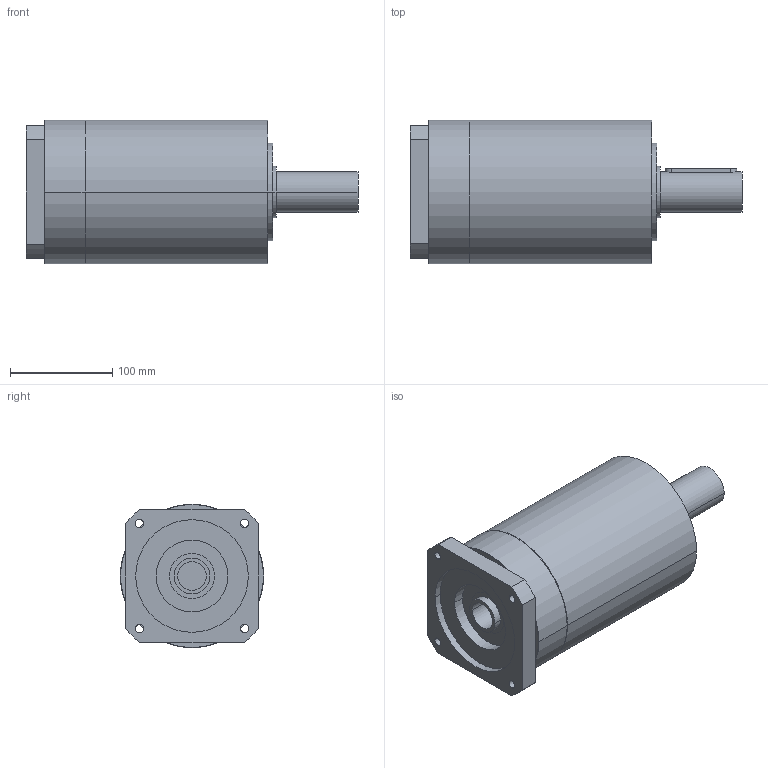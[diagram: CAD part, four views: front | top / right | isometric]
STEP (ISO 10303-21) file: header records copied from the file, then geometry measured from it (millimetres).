
FILE_DESCRIPTION(('CoCreate Modeling STEP Export'),'2;1');
FILE_NAME('GPR150_ig-9-12-16-20-28-35_40_B14_28_P08.stp','2014-08-19T17:03:48',(''),(''),'CoCreate Modeling STEP processor for AP214 (Solid Model)','CoCreate Modeling 16.00C 25-Feb-2009 (C) Parametric Technology GmbH','');
FILE_SCHEMA(('AUTOMOTIVE_DESIGN { 1 0 10303 214 1 1 1 1 }'));
Length unit declared in the file: millimetre
Products named in the file (2): GPR150_ig-9-12-16-20-28-35_40_B14_28_P08
Assembly tree (1 placements, depth 2):
  GPR150_ig-9-12-16-20-28-35_40_B14_28_P08
    GPR150_ig-9-12-16-20-28-35_40_B14_28_P08
Bounding box: 324 x 140 x 140 mm (x, y, z)
Volume: 3631278.6 mm3; surface area: 170909.2 mm2
Topology: 1 solids, 1 shells, 84 faces, 222 edges, 148 vertices
Faces by surface type: cylinder 44, plane 34, cone 6
Entity records: 2200 total; most frequent: ORIENTED_EDGE 440, CARTESIAN_POINT 415, DIRECTION 286, EDGE_CURVE 220, VERTEX_POINT 148, AXIS2_PLACEMENT_3D 107, EDGE_LOOP 102, FACE_OUTER_BOUND 84
